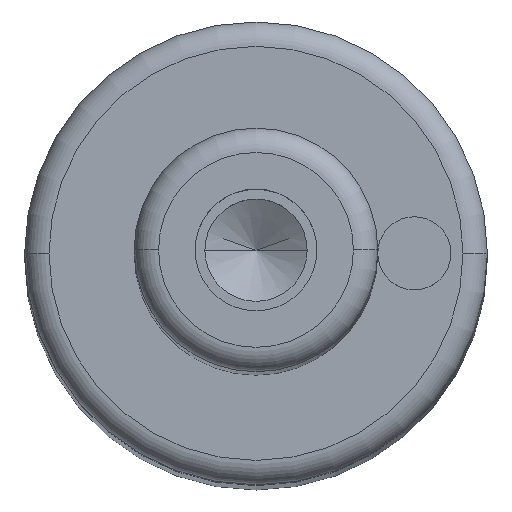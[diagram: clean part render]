
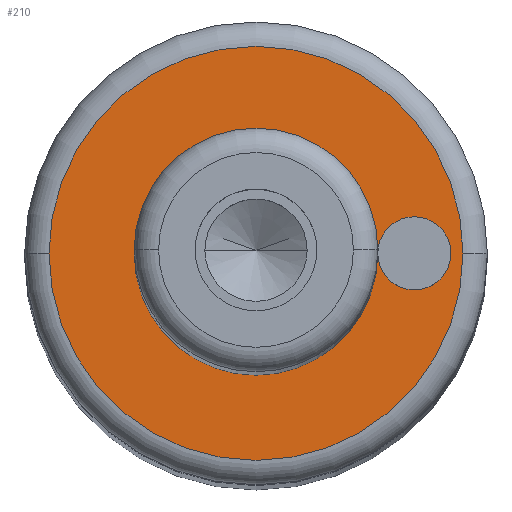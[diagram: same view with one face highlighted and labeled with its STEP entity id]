
A CAD part, top view. The second image highlights one B-rep face of the part: STEP entity #210.
In plain terms, the highlighted planar face has unit normal (0, 0, 1).
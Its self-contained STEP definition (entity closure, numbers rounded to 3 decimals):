
#99=PLANE('',#660);
#107=FACE_BOUND('',#285,.T.);
#108=FACE_BOUND('',#286,.T.);
#109=FACE_BOUND('',#287,.T.);
#210=ADVANCED_FACE('',(#107,#108,#109),#99,.T.);
#285=EDGE_LOOP('',(#395,#396));
#286=EDGE_LOOP('',(#397,#398));
#287=EDGE_LOOP('',(#399,#400));
#395=ORIENTED_EDGE('',*,*,#500,.F.);
#396=ORIENTED_EDGE('',*,*,#501,.F.);
#397=ORIENTED_EDGE('',*,*,#533,.F.);
#398=ORIENTED_EDGE('',*,*,#534,.F.);
#399=ORIENTED_EDGE('',*,*,#496,.T.);
#400=ORIENTED_EDGE('',*,*,#494,.T.);
#447=VERTEX_POINT('',#894);
#448=VERTEX_POINT('',#896);
#449=VERTEX_POINT('',#902);
#452=VERTEX_POINT('',#907);
#470=VERTEX_POINT('',#977);
#471=VERTEX_POINT('',#978);
#494=EDGE_CURVE('',#448,#447,#561,.T.);
#496=EDGE_CURVE('',#447,#448,#562,.T.);
#500=EDGE_CURVE('',#452,#449,#566,.T.);
#501=EDGE_CURVE('',#449,#452,#567,.T.);
#533=EDGE_CURVE('',#470,#471,#587,.T.);
#534=EDGE_CURVE('',#471,#470,#588,.T.);
#561=CIRCLE('',#612,5.);
#562=CIRCLE('',#614,5.);
#566=CIRCLE('',#619,8.5);
#567=CIRCLE('',#621,8.5);
#587=CIRCLE('',#658,1.5);
#588=CIRCLE('',#659,1.5);
#612=AXIS2_PLACEMENT_3D('',#895,#711,#712);
#614=AXIS2_PLACEMENT_3D('',#899,#716,#717);
#619=AXIS2_PLACEMENT_3D('',#908,#726,#727);
#621=AXIS2_PLACEMENT_3D('',#910,#730,#731);
#658=AXIS2_PLACEMENT_3D('',#976,#816,#817);
#659=AXIS2_PLACEMENT_3D('',#979,#818,#819);
#660=AXIS2_PLACEMENT_3D('',#980,#820,#821);
#711=DIRECTION('',(0.,0.,-1.));
#712=DIRECTION('',(-1.,0.,0.));
#716=DIRECTION('',(0.,0.,-1.));
#717=DIRECTION('',(-1.,0.,0.));
#726=DIRECTION('',(0.,0.,-1.));
#727=DIRECTION('',(-1.,0.,0.));
#730=DIRECTION('',(0.,0.,-1.));
#731=DIRECTION('',(-1.,0.,0.));
#816=DIRECTION('',(0.,0.,1.));
#817=DIRECTION('',(1.,0.,0.));
#818=DIRECTION('',(0.,0.,1.));
#819=DIRECTION('',(1.,0.,0.));
#820=DIRECTION('',(0.,0.,1.));
#821=DIRECTION('',(0.,-1.,0.));
#894=CARTESIAN_POINT('',(-5.,0.,124.));
#895=CARTESIAN_POINT('',(0.,0.,124.));
#896=CARTESIAN_POINT('',(5.,0.,124.));
#899=CARTESIAN_POINT('',(0.,0.,124.));
#902=CARTESIAN_POINT('',(-8.5,0.,124.));
#907=CARTESIAN_POINT('',(8.5,0.,124.));
#908=CARTESIAN_POINT('',(0.,0.,124.));
#910=CARTESIAN_POINT('',(0.,0.,124.));
#976=CARTESIAN_POINT('',(6.5,0.,124.));
#977=CARTESIAN_POINT('',(5.,0.,124.));
#978=CARTESIAN_POINT('',(8.,0.,124.));
#979=CARTESIAN_POINT('',(6.5,0.,124.));
#980=CARTESIAN_POINT('',(0.,0.,124.));
